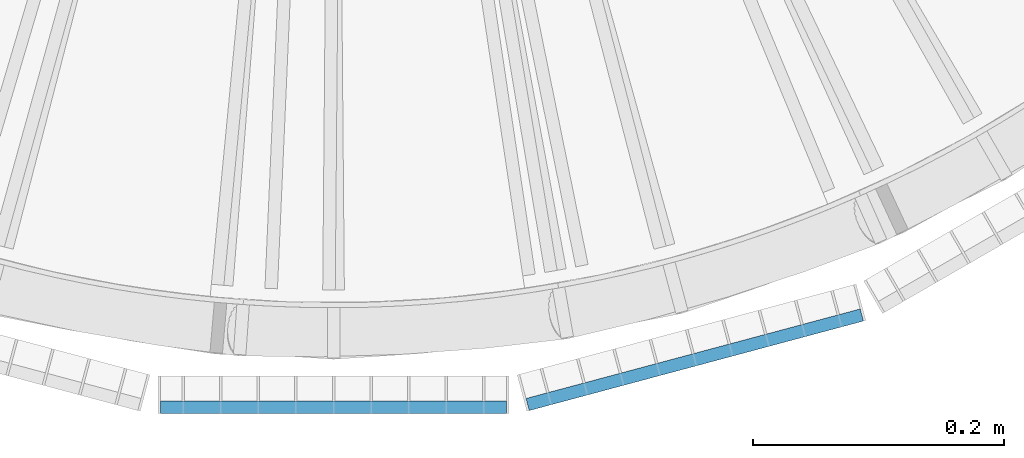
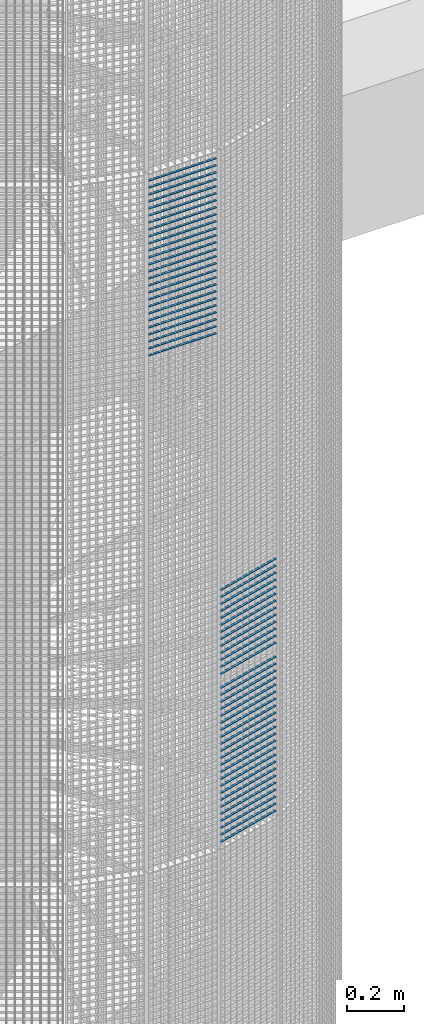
# One storey, part 154 of 1148: 62 beams, 2 elements without a shape of their own.
"""IFC2X3 building model written with IfcOpenShell, lengths in millimetres."""

from ifc_helpers import new_model, si_unit, frame, origin_with_axes, origin_2d_with_axis, place, context, subcontext, project, spatial, rectangle, extrude, material, type_object, element, aggregate, save


model = new_model("IFC2X3")

# Units and contexts
model_context = context("Model", 3, precision=1e-05, world=origin_with_axes())
body_context = subcontext(model_context, "Body", "Model", "MODEL_VIEW")
ifc_project = project(units=[si_unit("LENGTHUNIT", "METRE", prefix="MILLI"), si_unit("AREAUNIT", "SQUARE_METRE"), si_unit("VOLUMEUNIT", "CUBIC_METRE"), si_unit("MASSUNIT", "GRAM", prefix="KILO"), si_unit("TIMEUNIT", "SECOND"), si_unit("PLANEANGLEUNIT", "RADIAN"), si_unit("SOLIDANGLEUNIT", "STERADIAN"), si_unit("THERMODYNAMICTEMPERATUREUNIT", "DEGREE_CELSIUS"), si_unit("LUMINOUSINTENSITYUNIT", "LUMEN")], contexts=[model_context])

# Site, building, storey
site_placement = place(None, origin_with_axes())
site = spatial("IfcSite", under=ifc_project, at=site_placement, Name="Undefined", CompositionType="ELEMENT")
building_placement = place(site_placement, origin_with_axes())
building = spatial("IfcBuilding", under=site, at=building_placement, Name="Undefined", CompositionType="ELEMENT")
storey_placement = place(building_placement, origin_with_axes())
storey = spatial("IfcBuildingStorey", under=building, at=storey_placement, Name="Undefined", CompositionType="ELEMENT", Elevation=0.0)

# Assembly, beams
assembly_1_placement = place(storey_placement, origin_with_axes())
assembly_1 = element("IfcElementAssembly", 1, at=assembly_1_placement, inside=storey, Name="BORDURE", AssemblyPlace="NOTDEFINED", PredefinedType="NOTDEFINED")
ifc_material = material(Name="STEEL/S235JR")
beam_type = type_object("IfcBeamType", Name="PL2*10", PredefinedType="NOTDEFINED")
beam_1_placement = place(assembly_1_placement, frame((154.895926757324, -1111.25508286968, 6690.0), z_axis=(0.258819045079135, -0.965925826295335, 0.0), x_axis=(0.965925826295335, 0.258819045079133, 0.0)))
beam_1 = element("IfcBeam", 2, at=beam_1_placement, type_object=beam_type, material=ifc_material, Name="ENTRETOISE", context=body_context, shape_type="SweptSolid", body=[
    extrude(rectangle(XDim=2.0, YDim=10.0, at=origin_2d_with_axis()), frame((275.999999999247, 9.09494701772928e-13, 1.53210777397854e-14), z_axis=(-1.0, 0.0, 0.0), x_axis=(0.0, -1.0, 0.0)), (0.0, 0.0, 1.0), 276.0),
])
beam_2_placement = place(assembly_1_placement, frame((154.895926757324, -1111.25508286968, 6750.0), z_axis=(0.258819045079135, -0.965925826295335, 0.0), x_axis=(0.965925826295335, 0.258819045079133, 0.0)))
beam_2 = element("IfcBeam", 3, at=beam_2_placement, type_object=beam_type, material=ifc_material, Name="ENTRETOISE", context=body_context, shape_type="SweptSolid", body=[
    extrude(rectangle(XDim=2.0, YDim=10.0, at=origin_2d_with_axis()), frame((275.999999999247, 9.09494701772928e-13, 1.53210777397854e-14), z_axis=(-1.0, 0.0, 0.0), x_axis=(0.0, -1.0, 0.0)), (0.0, 0.0, 1.0), 276.0),
])
beam_3_placement = place(assembly_1_placement, frame((154.895926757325, -1111.25508286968, 6660.0), z_axis=(0.258819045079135, -0.965925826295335, 0.0), x_axis=(0.965925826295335, 0.258819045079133, 0.0)))
beam_3 = element("IfcBeam", 4, at=beam_3_placement, type_object=beam_type, material=ifc_material, Name="ENTRETOISE", context=body_context, shape_type="SweptSolid", body=[
    extrude(rectangle(XDim=2.0, YDim=10.0, at=origin_2d_with_axis()), frame((275.999999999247, 9.09494701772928e-13, 1.53210777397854e-14), z_axis=(-1.0, 0.0, 0.0), x_axis=(0.0, -1.0, 0.0)), (0.0, 0.0, 1.0), 276.0),
])
beam_4_placement = place(assembly_1_placement, frame((154.895926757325, -1111.25508286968, 6630.0), z_axis=(0.258819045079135, -0.965925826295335, 0.0), x_axis=(0.965925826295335, 0.258819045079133, 0.0)))
beam_4 = element("IfcBeam", 5, at=beam_4_placement, type_object=beam_type, material=ifc_material, Name="ENTRETOISE", context=body_context, shape_type="SweptSolid", body=[
    extrude(rectangle(XDim=2.0, YDim=10.0, at=origin_2d_with_axis()), frame((275.999999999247, 9.09494701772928e-13, 1.53210777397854e-14), z_axis=(-1.0, 0.0, 0.0), x_axis=(0.0, -1.0, 0.0)), (0.0, 0.0, 1.0), 276.0),
])
beam_5_placement = place(assembly_1_placement, frame((154.895926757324, -1111.25508286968, 6780.0), z_axis=(0.258819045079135, -0.965925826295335, 0.0), x_axis=(0.965925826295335, 0.258819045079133, 0.0)))
beam_5 = element("IfcBeam", 6, at=beam_5_placement, type_object=beam_type, material=ifc_material, Name="ENTRETOISE", context=body_context, shape_type="SweptSolid", body=[
    extrude(rectangle(XDim=2.0, YDim=10.0, at=origin_2d_with_axis()), frame((275.999999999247, 9.09494701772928e-13, 1.53210777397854e-14), z_axis=(-1.0, 0.0, 0.0), x_axis=(0.0, -1.0, 0.0)), (0.0, 0.0, 1.0), 276.0),
])
beam_6_placement = place(assembly_1_placement, frame((154.895926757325, -1111.25508286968, 6600.0), z_axis=(0.258819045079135, -0.965925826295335, 0.0), x_axis=(0.965925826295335, 0.258819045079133, 0.0)))
beam_6 = element("IfcBeam", 7, at=beam_6_placement, type_object=beam_type, material=ifc_material, Name="ENTRETOISE", context=body_context, shape_type="SweptSolid", body=[
    extrude(rectangle(XDim=2.0, YDim=10.0, at=origin_2d_with_axis()), frame((275.999999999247, 9.09494701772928e-13, 1.53210777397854e-14), z_axis=(-1.0, 0.0, 0.0), x_axis=(0.0, -1.0, 0.0)), (0.0, 0.0, 1.0), 276.0),
])
beam_7_placement = place(assembly_1_placement, frame((154.895926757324, -1111.25508286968, 6810.0), z_axis=(0.258819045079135, -0.965925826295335, 0.0), x_axis=(0.965925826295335, 0.258819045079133, 0.0)))
beam_7 = element("IfcBeam", 8, at=beam_7_placement, type_object=beam_type, material=ifc_material, Name="ENTRETOISE", context=body_context, shape_type="SweptSolid", body=[
    extrude(rectangle(XDim=2.0, YDim=10.0, at=origin_2d_with_axis()), frame((275.999999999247, 9.09494701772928e-13, 1.53210777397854e-14), z_axis=(-1.0, 0.0, 0.0), x_axis=(0.0, -1.0, 0.0)), (0.0, 0.0, 1.0), 276.0),
])
beam_8_placement = place(assembly_1_placement, frame((154.895926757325, -1111.25508286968, 6570.0), z_axis=(0.258819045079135, -0.965925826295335, 0.0), x_axis=(0.965925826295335, 0.258819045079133, 0.0)))
beam_8 = element("IfcBeam", 9, at=beam_8_placement, type_object=beam_type, material=ifc_material, Name="ENTRETOISE", context=body_context, shape_type="SweptSolid", body=[
    extrude(rectangle(XDim=2.0, YDim=10.0, at=origin_2d_with_axis()), frame((275.999999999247, 9.09494701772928e-13, 1.53210777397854e-14), z_axis=(-1.0, 0.0, 0.0), x_axis=(0.0, -1.0, 0.0)), (0.0, 0.0, 1.0), 276.0),
])
beam_9_placement = place(assembly_1_placement, frame((154.895926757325, -1111.25508286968, 6540.0), z_axis=(0.258819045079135, -0.965925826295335, 0.0), x_axis=(0.965925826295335, 0.258819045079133, 0.0)))
beam_9 = element("IfcBeam", 10, at=beam_9_placement, type_object=beam_type, material=ifc_material, Name="ENTRETOISE", context=body_context, shape_type="SweptSolid", body=[
    extrude(rectangle(XDim=2.0, YDim=10.0, at=origin_2d_with_axis()), frame((275.999999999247, 9.09494701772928e-13, 1.53210777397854e-14), z_axis=(-1.0, 0.0, 0.0), x_axis=(0.0, -1.0, 0.0)), (0.0, 0.0, 1.0), 276.0),
])
beam_10_placement = place(assembly_1_placement, frame((154.895926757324, -1111.25508286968, 6840.0), z_axis=(0.258819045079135, -0.965925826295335, 0.0), x_axis=(0.965925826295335, 0.258819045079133, 0.0)))
beam_10 = element("IfcBeam", 11, at=beam_10_placement, type_object=beam_type, material=ifc_material, Name="ENTRETOISE", context=body_context, shape_type="SweptSolid", body=[
    extrude(rectangle(XDim=2.0, YDim=10.0, at=origin_2d_with_axis()), frame((275.999999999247, 9.09494701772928e-13, 1.53210777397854e-14), z_axis=(-1.0, 0.0, 0.0), x_axis=(0.0, -1.0, 0.0)), (0.0, 0.0, 1.0), 276.0),
])
beam_11_placement = place(assembly_1_placement, frame((154.895926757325, -1111.25508286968, 6510.0), z_axis=(0.258819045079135, -0.965925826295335, 0.0), x_axis=(0.965925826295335, 0.258819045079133, 0.0)))
beam_11 = element("IfcBeam", 12, at=beam_11_placement, type_object=beam_type, material=ifc_material, Name="ENTRETOISE", context=body_context, shape_type="SweptSolid", body=[
    extrude(rectangle(XDim=2.0, YDim=10.0, at=origin_2d_with_axis()), frame((275.999999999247, 9.09494701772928e-13, 1.53210777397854e-14), z_axis=(-1.0, 0.0, 0.0), x_axis=(0.0, -1.0, 0.0)), (0.0, 0.0, 1.0), 276.0),
])
beam_12_placement = place(assembly_1_placement, frame((154.895926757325, -1111.25508286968, 6480.0), z_axis=(0.258819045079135, -0.965925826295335, 0.0), x_axis=(0.965925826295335, 0.258819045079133, 0.0)))
beam_12 = element("IfcBeam", 13, at=beam_12_placement, type_object=beam_type, material=ifc_material, Name="ENTRETOISE", context=body_context, shape_type="SweptSolid", body=[
    extrude(rectangle(XDim=2.0, YDim=10.0, at=origin_2d_with_axis()), frame((275.999999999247, 9.09494701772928e-13, 1.53210777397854e-14), z_axis=(-1.0, 0.0, 0.0), x_axis=(0.0, -1.0, 0.0)), (0.0, 0.0, 1.0), 276.0),
])
beam_13_placement = place(assembly_1_placement, frame((154.895926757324, -1111.25508286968, 6870.0), z_axis=(0.258819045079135, -0.965925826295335, 0.0), x_axis=(0.965925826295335, 0.258819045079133, 0.0)))
beam_13 = element("IfcBeam", 14, at=beam_13_placement, type_object=beam_type, material=ifc_material, Name="ENTRETOISE", context=body_context, shape_type="SweptSolid", body=[
    extrude(rectangle(XDim=2.0, YDim=10.0, at=origin_2d_with_axis()), frame((275.999999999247, 9.09494701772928e-13, 1.53210777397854e-14), z_axis=(-1.0, 0.0, 0.0), x_axis=(0.0, -1.0, 0.0)), (0.0, 0.0, 1.0), 276.0),
])
beam_14_placement = place(assembly_1_placement, frame((154.895926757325, -1111.25508286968, 6450.0), z_axis=(0.258819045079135, -0.965925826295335, 0.0), x_axis=(0.965925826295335, 0.258819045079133, 0.0)))
beam_14 = element("IfcBeam", 15, at=beam_14_placement, type_object=beam_type, material=ifc_material, Name="ENTRETOISE", context=body_context, shape_type="SweptSolid", body=[
    extrude(rectangle(XDim=2.0, YDim=10.0, at=origin_2d_with_axis()), frame((275.999999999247, 9.09494701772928e-13, 1.53210777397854e-14), z_axis=(-1.0, 0.0, 0.0), x_axis=(0.0, -1.0, 0.0)), (0.0, 0.0, 1.0), 276.0),
])
beam_15_placement = place(assembly_1_placement, frame((154.895926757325, -1111.25508286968, 6420.0), z_axis=(0.258819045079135, -0.965925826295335, 0.0), x_axis=(0.965925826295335, 0.258819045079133, 0.0)))
beam_15 = element("IfcBeam", 16, at=beam_15_placement, type_object=beam_type, material=ifc_material, Name="ENTRETOISE", context=body_context, shape_type="SweptSolid", body=[
    extrude(rectangle(XDim=2.0, YDim=10.0, at=origin_2d_with_axis()), frame((275.999999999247, 9.09494701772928e-13, 1.53210777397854e-14), z_axis=(-1.0, 0.0, 0.0), x_axis=(0.0, -1.0, 0.0)), (0.0, 0.0, 1.0), 276.0),
])
beam_16_placement = place(assembly_1_placement, frame((154.895926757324, -1111.25508286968, 6900.0), z_axis=(0.258819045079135, -0.965925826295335, 0.0), x_axis=(0.965925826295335, 0.258819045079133, 0.0)))
beam_16 = element("IfcBeam", 17, at=beam_16_placement, type_object=beam_type, material=ifc_material, Name="ENTRETOISE", context=body_context, shape_type="SweptSolid", body=[
    extrude(rectangle(XDim=2.0, YDim=10.0, at=origin_2d_with_axis()), frame((275.999999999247, 9.09494701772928e-13, 1.53210777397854e-14), z_axis=(-1.0, 0.0, 0.0), x_axis=(0.0, -1.0, 0.0)), (0.0, 0.0, 1.0), 276.0),
])
beam_17_placement = place(assembly_1_placement, frame((154.895926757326, -1111.25508286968, 6390.0), z_axis=(0.258819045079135, -0.965925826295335, 0.0), x_axis=(0.965925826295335, 0.258819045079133, 0.0)))
beam_17 = element("IfcBeam", 18, at=beam_17_placement, type_object=beam_type, material=ifc_material, Name="ENTRETOISE", context=body_context, shape_type="SweptSolid", body=[
    extrude(rectangle(XDim=2.0, YDim=10.0, at=origin_2d_with_axis()), frame((275.999999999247, 9.09494701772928e-13, 1.53210777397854e-14), z_axis=(-1.0, 0.0, 0.0), x_axis=(0.0, -1.0, 0.0)), (0.0, 0.0, 1.0), 276.0),
])
beam_18_placement = place(assembly_1_placement, frame((154.895926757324, -1111.25508286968, 6930.0), z_axis=(0.258819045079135, -0.965925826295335, 0.0), x_axis=(0.965925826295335, 0.258819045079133, 0.0)))
beam_18 = element("IfcBeam", 19, at=beam_18_placement, type_object=beam_type, material=ifc_material, Name="ENTRETOISE", context=body_context, shape_type="SweptSolid", body=[
    extrude(rectangle(XDim=2.0, YDim=10.0, at=origin_2d_with_axis()), frame((275.999999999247, 9.09494701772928e-13, 1.53210777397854e-14), z_axis=(-1.0, 0.0, 0.0), x_axis=(0.0, -1.0, 0.0)), (0.0, 0.0, 1.0), 276.0),
])
beam_19_placement = place(assembly_1_placement, frame((154.895926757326, -1111.25508286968, 6360.0), z_axis=(0.258819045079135, -0.965925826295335, 0.0), x_axis=(0.965925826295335, 0.258819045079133, 0.0)))
beam_19 = element("IfcBeam", 20, at=beam_19_placement, type_object=beam_type, material=ifc_material, Name="ENTRETOISE", context=body_context, shape_type="SweptSolid", body=[
    extrude(rectangle(XDim=2.0, YDim=10.0, at=origin_2d_with_axis()), frame((275.999999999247, 9.09494701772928e-13, 1.53210777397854e-14), z_axis=(-1.0, 0.0, 0.0), x_axis=(0.0, -1.0, 0.0)), (0.0, 0.0, 1.0), 276.0),
])
beam_20_placement = place(assembly_1_placement, frame((154.895926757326, -1111.25508286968, 6330.0), z_axis=(0.258819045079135, -0.965925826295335, 0.0), x_axis=(0.965925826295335, 0.258819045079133, 0.0)))
beam_20 = element("IfcBeam", 21, at=beam_20_placement, type_object=beam_type, material=ifc_material, Name="ENTRETOISE", context=body_context, shape_type="SweptSolid", body=[
    extrude(rectangle(XDim=2.0, YDim=10.0, at=origin_2d_with_axis()), frame((275.999999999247, 9.09494701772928e-13, 1.53210777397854e-14), z_axis=(-1.0, 0.0, 0.0), x_axis=(0.0, -1.0, 0.0)), (0.0, 0.0, 1.0), 276.0),
])
beam_21_placement = place(assembly_1_placement, frame((154.895926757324, -1111.25508286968, 6960.0), z_axis=(0.258819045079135, -0.965925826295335, 0.0), x_axis=(0.965925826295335, 0.258819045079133, 0.0)))
beam_21 = element("IfcBeam", 22, at=beam_21_placement, type_object=beam_type, material=ifc_material, Name="ENTRETOISE", context=body_context, shape_type="SweptSolid", body=[
    extrude(rectangle(XDim=2.0, YDim=10.0, at=origin_2d_with_axis()), frame((275.999999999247, 9.09494701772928e-13, 1.53210777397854e-14), z_axis=(-1.0, 0.0, 0.0), x_axis=(0.0, -1.0, 0.0)), (0.0, 0.0, 1.0), 276.0),
])
beam_22_placement = place(assembly_1_placement, frame((154.895926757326, -1111.25508286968, 6300.0), z_axis=(0.258819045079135, -0.965925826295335, 0.0), x_axis=(0.965925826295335, 0.258819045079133, 0.0)))
beam_22 = element("IfcBeam", 23, at=beam_22_placement, type_object=beam_type, material=ifc_material, Name="ENTRETOISE", context=body_context, shape_type="SweptSolid", body=[
    extrude(rectangle(XDim=2.0, YDim=10.0, at=origin_2d_with_axis()), frame((275.999999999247, 9.09494701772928e-13, 1.53210777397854e-14), z_axis=(-1.0, 0.0, 0.0), x_axis=(0.0, -1.0, 0.0)), (0.0, 0.0, 1.0), 276.0),
])
beam_23_placement = place(assembly_1_placement, frame((154.895926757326, -1111.25508286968, 6270.0), z_axis=(0.258819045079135, -0.965925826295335, 0.0), x_axis=(0.965925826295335, 0.258819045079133, 0.0)))
beam_23 = element("IfcBeam", 24, at=beam_23_placement, type_object=beam_type, material=ifc_material, Name="ENTRETOISE", context=body_context, shape_type="SweptSolid", body=[
    extrude(rectangle(XDim=2.0, YDim=10.0, at=origin_2d_with_axis()), frame((275.999999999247, 9.09494701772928e-13, 1.53210777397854e-14), z_axis=(-1.0, 0.0, 0.0), x_axis=(0.0, -1.0, 0.0)), (0.0, 0.0, 1.0), 276.0),
])
beam_24_placement = place(assembly_1_placement, frame((154.895926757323, -1111.25508286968, 6990.0), z_axis=(0.258819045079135, -0.965925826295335, 0.0), x_axis=(0.965925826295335, 0.258819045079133, 0.0)))
beam_24 = element("IfcBeam", 25, at=beam_24_placement, type_object=beam_type, material=ifc_material, Name="ENTRETOISE", context=body_context, shape_type="SweptSolid", body=[
    extrude(rectangle(XDim=2.0, YDim=10.0, at=origin_2d_with_axis()), frame((275.999999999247, 9.09494701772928e-13, 1.53210777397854e-14), z_axis=(-1.0, 0.0, 0.0), x_axis=(0.0, -1.0, 0.0)), (0.0, 0.0, 1.0), 276.0),
])
beam_25_placement = place(assembly_1_placement, frame((154.895926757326, -1111.25508286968, 6240.0), z_axis=(0.258819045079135, -0.965925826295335, 0.0), x_axis=(0.965925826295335, 0.258819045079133, 0.0)))
beam_25 = element("IfcBeam", 26, at=beam_25_placement, type_object=beam_type, material=ifc_material, Name="ENTRETOISE", context=body_context, shape_type="SweptSolid", body=[
    extrude(rectangle(XDim=2.0, YDim=10.0, at=origin_2d_with_axis()), frame((275.999999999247, 9.09494701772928e-13, 1.53210777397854e-14), z_axis=(-1.0, 0.0, 0.0), x_axis=(0.0, -1.0, 0.0)), (0.0, 0.0, 1.0), 276.0),
])
beam_26_placement = place(assembly_1_placement, frame((154.895926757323, -1111.25508286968, 7020.0), z_axis=(0.258819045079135, -0.965925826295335, 0.0), x_axis=(0.965925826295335, 0.258819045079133, 0.0)))
beam_26 = element("IfcBeam", 27, at=beam_26_placement, type_object=beam_type, material=ifc_material, Name="ENTRETOISE", context=body_context, shape_type="SweptSolid", body=[
    extrude(rectangle(XDim=2.0, YDim=10.0, at=origin_2d_with_axis()), frame((275.999999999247, 9.09494701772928e-13, 1.53210777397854e-14), z_axis=(-1.0, 0.0, 0.0), x_axis=(0.0, -1.0, 0.0)), (0.0, 0.0, 1.0), 276.0),
])
beam_27_placement = place(assembly_1_placement, frame((154.895926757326, -1111.25508286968, 6210.0), z_axis=(0.258819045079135, -0.965925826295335, 0.0), x_axis=(0.965925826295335, 0.258819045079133, 0.0)))
beam_27 = element("IfcBeam", 28, at=beam_27_placement, type_object=beam_type, material=ifc_material, Name="ENTRETOISE", context=body_context, shape_type="SweptSolid", body=[
    extrude(rectangle(XDim=2.0, YDim=10.0, at=origin_2d_with_axis()), frame((275.999999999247, 9.09494701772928e-13, 1.53210777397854e-14), z_axis=(-1.0, 0.0, 0.0), x_axis=(0.0, -1.0, 0.0)), (0.0, 0.0, 1.0), 276.0),
])
beam_28_placement = place(assembly_1_placement, frame((154.895926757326, -1111.25508286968, 6180.0), z_axis=(0.258819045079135, -0.965925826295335, 0.0), x_axis=(0.965925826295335, 0.258819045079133, 0.0)))
beam_28 = element("IfcBeam", 29, at=beam_28_placement, type_object=beam_type, material=ifc_material, Name="ENTRETOISE", context=body_context, shape_type="SweptSolid", body=[
    extrude(rectangle(XDim=2.0, YDim=10.0, at=origin_2d_with_axis()), frame((275.999999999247, 9.09494701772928e-13, 1.53210777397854e-14), z_axis=(-1.0, 0.0, 0.0), x_axis=(0.0, -1.0, 0.0)), (0.0, 0.0, 1.0), 276.0),
])
beam_29_placement = place(assembly_1_placement, frame((154.895926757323, -1111.25508286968, 7050.0), z_axis=(0.258819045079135, -0.965925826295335, 0.0), x_axis=(0.965925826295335, 0.258819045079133, 0.0)))
beam_29 = element("IfcBeam", 30, at=beam_29_placement, type_object=beam_type, material=ifc_material, Name="ENTRETOISE", context=body_context, shape_type="SweptSolid", body=[
    extrude(rectangle(XDim=2.0, YDim=10.0, at=origin_2d_with_axis()), frame((275.999999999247, 9.09494701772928e-13, 1.53210777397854e-14), z_axis=(-1.0, 0.0, 0.0), x_axis=(0.0, -1.0, 0.0)), (0.0, 0.0, 1.0), 276.0),
])
beam_30_placement = place(assembly_1_placement, frame((154.895926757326, -1111.25508286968, 6150.0), z_axis=(0.258819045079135, -0.965925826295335, 0.0), x_axis=(0.965925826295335, 0.258819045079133, 0.0)))
beam_30 = element("IfcBeam", 31, at=beam_30_placement, type_object=beam_type, material=ifc_material, Name="ENTRETOISE", context=body_context, shape_type="SweptSolid", body=[
    extrude(rectangle(XDim=2.0, YDim=10.0, at=origin_2d_with_axis()), frame((275.999999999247, 9.09494701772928e-13, 1.53210777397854e-14), z_axis=(-1.0, 0.0, 0.0), x_axis=(0.0, -1.0, 0.0)), (0.0, 0.0, 1.0), 276.0),
])
beam_31_placement = place(assembly_1_placement, frame((154.895926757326, -1111.25508286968, 6120.0), z_axis=(0.258819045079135, -0.965925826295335, 0.0), x_axis=(0.965925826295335, 0.258819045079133, 0.0)))
beam_31 = element("IfcBeam", 32, at=beam_31_placement, type_object=beam_type, material=ifc_material, Name="ENTRETOISE", context=body_context, shape_type="SweptSolid", body=[
    extrude(rectangle(XDim=2.0, YDim=10.0, at=origin_2d_with_axis()), frame((275.999999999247, 9.09494701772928e-13, 1.53210777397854e-14), z_axis=(-1.0, 0.0, 0.0), x_axis=(0.0, -1.0, 0.0)), (0.0, 0.0, 1.0), 276.0),
])
beam_32_placement = place(assembly_1_placement, frame((154.895926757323, -1111.25508286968, 7080.0), z_axis=(0.258819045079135, -0.965925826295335, 0.0), x_axis=(0.965925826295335, 0.258819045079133, 0.0)))
beam_32 = element("IfcBeam", 33, at=beam_32_placement, type_object=beam_type, material=ifc_material, Name="ENTRETOISE", context=body_context, shape_type="SweptSolid", body=[
    extrude(rectangle(XDim=2.0, YDim=10.0, at=origin_2d_with_axis()), frame((275.999999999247, 9.09494701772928e-13, 1.53210777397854e-14), z_axis=(-1.0, 0.0, 0.0), x_axis=(0.0, -1.0, 0.0)), (0.0, 0.0, 1.0), 276.0),
])
beam_33_placement = place(assembly_1_placement, frame((154.895926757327, -1111.25508286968, 6090.0), z_axis=(0.258819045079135, -0.965925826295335, 0.0), x_axis=(0.965925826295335, 0.258819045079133, 0.0)))
beam_33 = element("IfcBeam", 34, at=beam_33_placement, type_object=beam_type, material=ifc_material, Name="ENTRETOISE", context=body_context, shape_type="SweptSolid", body=[
    extrude(rectangle(XDim=2.0, YDim=10.0, at=origin_2d_with_axis()), frame((275.999999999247, 9.09494701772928e-13, 1.53210777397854e-14), z_axis=(-1.0, 0.0, 0.0), x_axis=(0.0, -1.0, 0.0)), (0.0, 0.0, 1.0), 276.0),
])
beam_34_placement = place(assembly_1_placement, frame((154.895926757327, -1111.25508286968, 6060.0), z_axis=(0.258819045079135, -0.965925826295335, 0.0), x_axis=(0.965925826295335, 0.258819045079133, 0.0)))
beam_34 = element("IfcBeam", 35, at=beam_34_placement, type_object=beam_type, material=ifc_material, Name="ENTRETOISE", context=body_context, shape_type="SweptSolid", body=[
    extrude(rectangle(XDim=2.0, YDim=10.0, at=origin_2d_with_axis()), frame((275.999999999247, 9.09494701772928e-13, 1.53210777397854e-14), z_axis=(-1.0, 0.0, 0.0), x_axis=(0.0, -1.0, 0.0)), (0.0, 0.0, 1.0), 276.0),
])
beam_35_placement = place(assembly_1_placement, frame((154.895926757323, -1111.25508286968, 7110.0), z_axis=(0.258819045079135, -0.965925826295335, 0.0), x_axis=(0.965925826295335, 0.258819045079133, 0.0)))
beam_35 = element("IfcBeam", 36, at=beam_35_placement, type_object=beam_type, material=ifc_material, Name="ENTRETOISE", context=body_context, shape_type="SweptSolid", body=[
    extrude(rectangle(XDim=2.0, YDim=10.0, at=origin_2d_with_axis()), frame((275.999999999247, 9.09494701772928e-13, 1.53210777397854e-14), z_axis=(-1.0, 0.0, 0.0), x_axis=(0.0, -1.0, 0.0)), (0.0, 0.0, 1.0), 276.0),
])
beam_36_placement = place(assembly_1_placement, frame((154.895926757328, -1111.25508286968, 6030.0), z_axis=(0.258819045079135, -0.965925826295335, 0.0), x_axis=(0.965925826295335, 0.258819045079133, 0.0)))
beam_36 = element("IfcBeam", 37, at=beam_36_placement, type_object=beam_type, material=ifc_material, Name="ENTRETOISE", context=body_context, shape_type="SweptSolid", body=[
    extrude(rectangle(XDim=2.0, YDim=10.0, at=origin_2d_with_axis()), frame((275.999999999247, 9.09494701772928e-13, 1.53210777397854e-14), z_axis=(-1.0, 0.0, 0.0), x_axis=(0.0, -1.0, 0.0)), (0.0, 0.0, 1.0), 276.0),
])
aggregate(assembly_1, [beam_1, beam_2, beam_3, beam_4, beam_5, beam_6, beam_7, beam_8, beam_9, beam_10, beam_11, beam_12, beam_13, beam_14, beam_15, beam_16, beam_17, beam_18, beam_19, beam_20, beam_21, beam_22, beam_23, beam_24, beam_25, beam_26, beam_27, beam_28, beam_29, beam_30, beam_31, beam_32, beam_33, beam_34, beam_35, beam_36])

assembly_2_placement = place(storey_placement, origin_with_axes())
assembly_2 = element("IfcElementAssembly", 38, at=assembly_2_placement, inside=storey, Name="BORDURE", AssemblyPlace="NOTDEFINED", PredefinedType="NOTDEFINED")
beam_37_placement = place(assembly_2_placement, frame((-137.996003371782, -1113.47999999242, 8970.0), z_axis=(0.0, -1.0, 0.0), x_axis=(1.0, 0.0, 0.0)))
beam_37 = element("IfcBeam", 39, at=beam_37_placement, type_object=beam_type, material=ifc_material, Name="ENTRETOISE", context=body_context, shape_type="SweptSolid", body=[
    extrude(rectangle(XDim=2.0, YDim=10.0, at=origin_2d_with_axis()), frame((275.999999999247, 9.09494701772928e-13, 1.53210777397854e-14), z_axis=(-1.0, 0.0, 0.0), x_axis=(0.0, -1.0, 0.0)), (0.0, 0.0, 1.0), 276.0),
])
beam_38_placement = place(assembly_2_placement, frame((-137.996003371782, -1113.47999999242, 8940.0), z_axis=(0.0, -1.0, 0.0), x_axis=(1.0, 0.0, 0.0)))
beam_38 = element("IfcBeam", 40, at=beam_38_placement, type_object=beam_type, material=ifc_material, Name="ENTRETOISE", context=body_context, shape_type="SweptSolid", body=[
    extrude(rectangle(XDim=2.0, YDim=10.0, at=origin_2d_with_axis()), frame((275.999999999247, 9.09494701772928e-13, 1.53210777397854e-14), z_axis=(-1.0, 0.0, 0.0), x_axis=(0.0, -1.0, 0.0)), (0.0, 0.0, 1.0), 276.0),
])
beam_39_placement = place(assembly_2_placement, frame((-137.996003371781, -1113.47999999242, 8910.0), z_axis=(0.0, -1.0, 0.0), x_axis=(1.0, 0.0, 0.0)))
beam_39 = element("IfcBeam", 41, at=beam_39_placement, type_object=beam_type, material=ifc_material, Name="ENTRETOISE", context=body_context, shape_type="SweptSolid", body=[
    extrude(rectangle(XDim=2.0, YDim=10.0, at=origin_2d_with_axis()), frame((275.999999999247, 9.09494701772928e-13, 1.53210777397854e-14), z_axis=(-1.0, 0.0, 0.0), x_axis=(0.0, -1.0, 0.0)), (0.0, 0.0, 1.0), 276.0),
])
beam_40_placement = place(assembly_2_placement, frame((-137.996003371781, -1113.47999999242, 8880.0), z_axis=(0.0, -1.0, 0.0), x_axis=(1.0, 0.0, 0.0)))
beam_40 = element("IfcBeam", 42, at=beam_40_placement, type_object=beam_type, material=ifc_material, Name="ENTRETOISE", context=body_context, shape_type="SweptSolid", body=[
    extrude(rectangle(XDim=2.0, YDim=10.0, at=origin_2d_with_axis()), frame((275.999999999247, 9.09494701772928e-13, 1.53210777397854e-14), z_axis=(-1.0, 0.0, 0.0), x_axis=(0.0, -1.0, 0.0)), (0.0, 0.0, 1.0), 276.0),
])
beam_41_placement = place(assembly_2_placement, frame((-137.996003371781, -1113.47999999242, 8850.0), z_axis=(0.0, -1.0, 0.0), x_axis=(1.0, 0.0, 0.0)))
beam_41 = element("IfcBeam", 43, at=beam_41_placement, type_object=beam_type, material=ifc_material, Name="ENTRETOISE", context=body_context, shape_type="SweptSolid", body=[
    extrude(rectangle(XDim=2.0, YDim=10.0, at=origin_2d_with_axis()), frame((275.999999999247, 9.09494701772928e-13, 1.53210777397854e-14), z_axis=(-1.0, 0.0, 0.0), x_axis=(0.0, -1.0, 0.0)), (0.0, 0.0, 1.0), 276.0),
])
beam_42_placement = place(assembly_2_placement, frame((-137.996003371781, -1113.47999999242, 8820.0), z_axis=(0.0, -1.0, 0.0), x_axis=(1.0, 0.0, 0.0)))
beam_42 = element("IfcBeam", 44, at=beam_42_placement, type_object=beam_type, material=ifc_material, Name="ENTRETOISE", context=body_context, shape_type="SweptSolid", body=[
    extrude(rectangle(XDim=2.0, YDim=10.0, at=origin_2d_with_axis()), frame((275.999999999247, 9.09494701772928e-13, 1.53210777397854e-14), z_axis=(-1.0, 0.0, 0.0), x_axis=(0.0, -1.0, 0.0)), (0.0, 0.0, 1.0), 276.0),
])
beam_43_placement = place(assembly_2_placement, frame((-137.996003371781, -1113.47999999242, 8790.0), z_axis=(0.0, -1.0, 0.0), x_axis=(1.0, 0.0, 0.0)))
beam_43 = element("IfcBeam", 45, at=beam_43_placement, type_object=beam_type, material=ifc_material, Name="ENTRETOISE", context=body_context, shape_type="SweptSolid", body=[
    extrude(rectangle(XDim=2.0, YDim=10.0, at=origin_2d_with_axis()), frame((275.999999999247, 9.09494701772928e-13, 1.53210777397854e-14), z_axis=(-1.0, 0.0, 0.0), x_axis=(0.0, -1.0, 0.0)), (0.0, 0.0, 1.0), 276.0),
])
beam_44_placement = place(assembly_2_placement, frame((-137.996003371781, -1113.47999999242, 8760.0), z_axis=(0.0, -1.0, 0.0), x_axis=(1.0, 0.0, 0.0)))
beam_44 = element("IfcBeam", 46, at=beam_44_placement, type_object=beam_type, material=ifc_material, Name="ENTRETOISE", context=body_context, shape_type="SweptSolid", body=[
    extrude(rectangle(XDim=2.0, YDim=10.0, at=origin_2d_with_axis()), frame((275.999999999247, 9.09494701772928e-13, 1.53210777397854e-14), z_axis=(-1.0, 0.0, 0.0), x_axis=(0.0, -1.0, 0.0)), (0.0, 0.0, 1.0), 276.0),
])
beam_45_placement = place(assembly_2_placement, frame((-137.996003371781, -1113.47999999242, 8730.0), z_axis=(0.0, -1.0, 0.0), x_axis=(1.0, 0.0, 0.0)))
beam_45 = element("IfcBeam", 47, at=beam_45_placement, type_object=beam_type, material=ifc_material, Name="ENTRETOISE", context=body_context, shape_type="SweptSolid", body=[
    extrude(rectangle(XDim=2.0, YDim=10.0, at=origin_2d_with_axis()), frame((275.999999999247, 9.09494701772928e-13, 1.53210777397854e-14), z_axis=(-1.0, 0.0, 0.0), x_axis=(0.0, -1.0, 0.0)), (0.0, 0.0, 1.0), 276.0),
])
beam_46_placement = place(assembly_2_placement, frame((-137.996003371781, -1113.47999999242, 8700.0), z_axis=(0.0, -1.0, 0.0), x_axis=(1.0, 0.0, 0.0)))
beam_46 = element("IfcBeam", 48, at=beam_46_placement, type_object=beam_type, material=ifc_material, Name="ENTRETOISE", context=body_context, shape_type="SweptSolid", body=[
    extrude(rectangle(XDim=2.0, YDim=10.0, at=origin_2d_with_axis()), frame((275.999999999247, 9.09494701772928e-13, 1.53210777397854e-14), z_axis=(-1.0, 0.0, 0.0), x_axis=(0.0, -1.0, 0.0)), (0.0, 0.0, 1.0), 276.0),
])
beam_47_placement = place(assembly_2_placement, frame((-137.996003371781, -1113.47999999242, 8670.0), z_axis=(0.0, -1.0, 0.0), x_axis=(1.0, 0.0, 0.0)))
beam_47 = element("IfcBeam", 49, at=beam_47_placement, type_object=beam_type, material=ifc_material, Name="ENTRETOISE", context=body_context, shape_type="SweptSolid", body=[
    extrude(rectangle(XDim=2.0, YDim=10.0, at=origin_2d_with_axis()), frame((275.999999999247, 9.09494701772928e-13, 1.53210777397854e-14), z_axis=(-1.0, 0.0, 0.0), x_axis=(0.0, -1.0, 0.0)), (0.0, 0.0, 1.0), 276.0),
])
beam_48_placement = place(assembly_2_placement, frame((-137.996003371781, -1113.47999999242, 8640.0), z_axis=(0.0, -1.0, 0.0), x_axis=(1.0, 0.0, 0.0)))
beam_48 = element("IfcBeam", 50, at=beam_48_placement, type_object=beam_type, material=ifc_material, Name="ENTRETOISE", context=body_context, shape_type="SweptSolid", body=[
    extrude(rectangle(XDim=2.0, YDim=10.0, at=origin_2d_with_axis()), frame((275.999999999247, 9.09494701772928e-13, 1.53210777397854e-14), z_axis=(-1.0, 0.0, 0.0), x_axis=(0.0, -1.0, 0.0)), (0.0, 0.0, 1.0), 276.0),
])
beam_49_placement = place(assembly_2_placement, frame((-137.99600337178, -1113.47999999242, 8610.0), z_axis=(0.0, -1.0, 0.0), x_axis=(1.0, 0.0, 0.0)))
beam_49 = element("IfcBeam", 51, at=beam_49_placement, type_object=beam_type, material=ifc_material, Name="ENTRETOISE", context=body_context, shape_type="SweptSolid", body=[
    extrude(rectangle(XDim=2.0, YDim=10.0, at=origin_2d_with_axis()), frame((275.999999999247, 9.09494701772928e-13, 1.53210777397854e-14), z_axis=(-1.0, 0.0, 0.0), x_axis=(0.0, -1.0, 0.0)), (0.0, 0.0, 1.0), 276.0),
])
beam_50_placement = place(assembly_2_placement, frame((-137.99600337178, -1113.47999999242, 8580.0), z_axis=(0.0, -1.0, 0.0), x_axis=(1.0, 0.0, 0.0)))
beam_50 = element("IfcBeam", 52, at=beam_50_placement, type_object=beam_type, material=ifc_material, Name="ENTRETOISE", context=body_context, shape_type="SweptSolid", body=[
    extrude(rectangle(XDim=2.0, YDim=10.0, at=origin_2d_with_axis()), frame((275.999999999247, 9.09494701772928e-13, 1.53210777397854e-14), z_axis=(-1.0, 0.0, 0.0), x_axis=(0.0, -1.0, 0.0)), (0.0, 0.0, 1.0), 276.0),
])
beam_51_placement = place(assembly_2_placement, frame((-137.99600337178, -1113.47999999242, 8550.0), z_axis=(0.0, -1.0, 0.0), x_axis=(1.0, 0.0, 0.0)))
beam_51 = element("IfcBeam", 53, at=beam_51_placement, type_object=beam_type, material=ifc_material, Name="ENTRETOISE", context=body_context, shape_type="SweptSolid", body=[
    extrude(rectangle(XDim=2.0, YDim=10.0, at=origin_2d_with_axis()), frame((275.999999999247, 9.09494701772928e-13, 1.53210777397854e-14), z_axis=(-1.0, 0.0, 0.0), x_axis=(0.0, -1.0, 0.0)), (0.0, 0.0, 1.0), 276.0),
])
beam_52_placement = place(assembly_2_placement, frame((-137.99600337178, -1113.47999999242, 8520.0), z_axis=(0.0, -1.0, 0.0), x_axis=(1.0, 0.0, 0.0)))
beam_52 = element("IfcBeam", 54, at=beam_52_placement, type_object=beam_type, material=ifc_material, Name="ENTRETOISE", context=body_context, shape_type="SweptSolid", body=[
    extrude(rectangle(XDim=2.0, YDim=10.0, at=origin_2d_with_axis()), frame((275.999999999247, 9.09494701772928e-13, 1.53210777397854e-14), z_axis=(-1.0, 0.0, 0.0), x_axis=(0.0, -1.0, 0.0)), (0.0, 0.0, 1.0), 276.0),
])
beam_53_placement = place(assembly_2_placement, frame((-137.99600337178, -1113.47999999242, 8490.0), z_axis=(0.0, -1.0, 0.0), x_axis=(1.0, 0.0, 0.0)))
beam_53 = element("IfcBeam", 55, at=beam_53_placement, type_object=beam_type, material=ifc_material, Name="ENTRETOISE", context=body_context, shape_type="SweptSolid", body=[
    extrude(rectangle(XDim=2.0, YDim=10.0, at=origin_2d_with_axis()), frame((275.999999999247, 9.09494701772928e-13, 1.53210777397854e-14), z_axis=(-1.0, 0.0, 0.0), x_axis=(0.0, -1.0, 0.0)), (0.0, 0.0, 1.0), 276.0),
])
beam_54_placement = place(assembly_2_placement, frame((-137.99600337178, -1113.47999999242, 8460.0), z_axis=(0.0, -1.0, 0.0), x_axis=(1.0, 0.0, 0.0)))
beam_54 = element("IfcBeam", 56, at=beam_54_placement, type_object=beam_type, material=ifc_material, Name="ENTRETOISE", context=body_context, shape_type="SweptSolid", body=[
    extrude(rectangle(XDim=2.0, YDim=10.0, at=origin_2d_with_axis()), frame((275.999999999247, 9.09494701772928e-13, 1.53210777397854e-14), z_axis=(-1.0, 0.0, 0.0), x_axis=(0.0, -1.0, 0.0)), (0.0, 0.0, 1.0), 276.0),
])
beam_55_placement = place(assembly_2_placement, frame((-137.99600337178, -1113.47999999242, 8430.0), z_axis=(0.0, -1.0, 0.0), x_axis=(1.0, 0.0, 0.0)))
beam_55 = element("IfcBeam", 57, at=beam_55_placement, type_object=beam_type, material=ifc_material, Name="ENTRETOISE", context=body_context, shape_type="SweptSolid", body=[
    extrude(rectangle(XDim=2.0, YDim=10.0, at=origin_2d_with_axis()), frame((275.999999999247, 9.09494701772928e-13, 1.53210777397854e-14), z_axis=(-1.0, 0.0, 0.0), x_axis=(0.0, -1.0, 0.0)), (0.0, 0.0, 1.0), 276.0),
])
beam_56_placement = place(assembly_2_placement, frame((-137.99600337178, -1113.47999999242, 8400.0), z_axis=(0.0, -1.0, 0.0), x_axis=(1.0, 0.0, 0.0)))
beam_56 = element("IfcBeam", 58, at=beam_56_placement, type_object=beam_type, material=ifc_material, Name="ENTRETOISE", context=body_context, shape_type="SweptSolid", body=[
    extrude(rectangle(XDim=2.0, YDim=10.0, at=origin_2d_with_axis()), frame((275.999999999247, 9.09494701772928e-13, 1.53210777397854e-14), z_axis=(-1.0, 0.0, 0.0), x_axis=(0.0, -1.0, 0.0)), (0.0, 0.0, 1.0), 276.0),
])
beam_57_placement = place(assembly_2_placement, frame((-137.99600337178, -1113.47999999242, 8370.0), z_axis=(0.0, -1.0, 0.0), x_axis=(1.0, 0.0, 0.0)))
beam_57 = element("IfcBeam", 59, at=beam_57_placement, type_object=beam_type, material=ifc_material, Name="ENTRETOISE", context=body_context, shape_type="SweptSolid", body=[
    extrude(rectangle(XDim=2.0, YDim=10.0, at=origin_2d_with_axis()), frame((275.999999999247, 9.09494701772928e-13, 1.53210777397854e-14), z_axis=(-1.0, 0.0, 0.0), x_axis=(0.0, -1.0, 0.0)), (0.0, 0.0, 1.0), 276.0),
])
beam_58_placement = place(assembly_2_placement, frame((-137.99600337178, -1113.47999999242, 8340.0), z_axis=(0.0, -1.0, 0.0), x_axis=(1.0, 0.0, 0.0)))
beam_58 = element("IfcBeam", 60, at=beam_58_placement, type_object=beam_type, material=ifc_material, Name="ENTRETOISE", context=body_context, shape_type="SweptSolid", body=[
    extrude(rectangle(XDim=2.0, YDim=10.0, at=origin_2d_with_axis()), frame((275.999999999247, 9.09494701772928e-13, 1.53210777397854e-14), z_axis=(-1.0, 0.0, 0.0), x_axis=(0.0, -1.0, 0.0)), (0.0, 0.0, 1.0), 276.0),
])
beam_59_placement = place(assembly_2_placement, frame((-137.996003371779, -1113.47999999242, 8310.0), z_axis=(0.0, -1.0, 0.0), x_axis=(1.0, 0.0, 0.0)))
beam_59 = element("IfcBeam", 61, at=beam_59_placement, type_object=beam_type, material=ifc_material, Name="ENTRETOISE", context=body_context, shape_type="SweptSolid", body=[
    extrude(rectangle(XDim=2.0, YDim=10.0, at=origin_2d_with_axis()), frame((275.999999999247, 9.09494701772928e-13, 1.53210777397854e-14), z_axis=(-1.0, 0.0, 0.0), x_axis=(0.0, -1.0, 0.0)), (0.0, 0.0, 1.0), 276.0),
])
beam_60_placement = place(assembly_2_placement, frame((-137.996003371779, -1113.47999999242, 8280.0), z_axis=(0.0, -1.0, 0.0), x_axis=(1.0, 0.0, 0.0)))
beam_60 = element("IfcBeam", 62, at=beam_60_placement, type_object=beam_type, material=ifc_material, Name="ENTRETOISE", context=body_context, shape_type="SweptSolid", body=[
    extrude(rectangle(XDim=2.0, YDim=10.0, at=origin_2d_with_axis()), frame((275.999999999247, 9.09494701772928e-13, 1.53210777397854e-14), z_axis=(-1.0, 0.0, 0.0), x_axis=(0.0, -1.0, 0.0)), (0.0, 0.0, 1.0), 276.0),
])
beam_61_placement = place(assembly_2_placement, frame((-137.996003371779, -1113.47999999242, 8250.0), z_axis=(0.0, -1.0, 0.0), x_axis=(1.0, 0.0, 0.0)))
beam_61 = element("IfcBeam", 63, at=beam_61_placement, type_object=beam_type, material=ifc_material, Name="ENTRETOISE", context=body_context, shape_type="SweptSolid", body=[
    extrude(rectangle(XDim=2.0, YDim=10.0, at=origin_2d_with_axis()), frame((275.999999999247, 9.09494701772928e-13, 1.53210777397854e-14), z_axis=(-1.0, 0.0, 0.0), x_axis=(0.0, -1.0, 0.0)), (0.0, 0.0, 1.0), 276.0),
])
beam_62_placement = place(assembly_2_placement, frame((-137.996003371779, -1113.47999999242, 8220.0), z_axis=(0.0, -1.0, 0.0), x_axis=(1.0, 0.0, 0.0)))
beam_62 = element("IfcBeam", 64, at=beam_62_placement, type_object=beam_type, material=ifc_material, Name="ENTRETOISE", context=body_context, shape_type="SweptSolid", body=[
    extrude(rectangle(XDim=2.0, YDim=10.0, at=origin_2d_with_axis()), frame((275.999999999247, 9.09494701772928e-13, 1.53210777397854e-14), z_axis=(-1.0, 0.0, 0.0), x_axis=(0.0, -1.0, 0.0)), (0.0, 0.0, 1.0), 276.0),
])
aggregate(assembly_2, [beam_37, beam_38, beam_39, beam_40, beam_41, beam_42, beam_43, beam_44, beam_45, beam_46, beam_47, beam_48, beam_49, beam_50, beam_51, beam_52, beam_53, beam_54, beam_55, beam_56, beam_57, beam_58, beam_59, beam_60, beam_61, beam_62])

save(model, "model.ifc")
